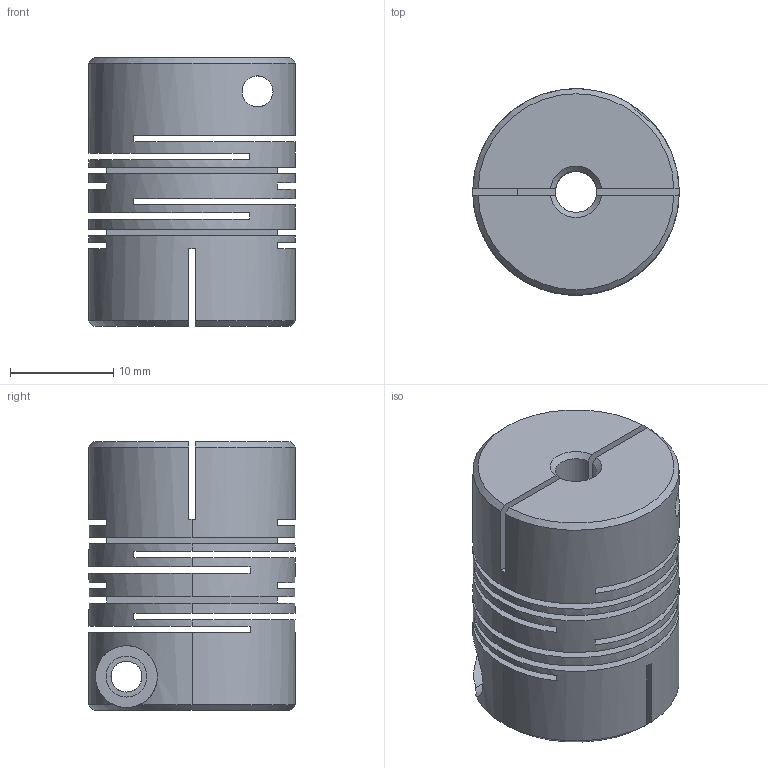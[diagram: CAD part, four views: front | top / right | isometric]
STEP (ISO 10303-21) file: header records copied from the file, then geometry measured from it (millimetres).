
FILE_DESCRIPTION (( 'STEP AP203' ), '1' );
FILE_NAME ('SFC-20C.STEP', '2009-09-30T15:19:25', ( 'USER' ), ( 'HOME' ), 'SwSTEP 2.0', 'SolidWorks 2007', '' );
FILE_SCHEMA (( 'CONFIG_CONTROL_DESIGN' ));
Length unit declared in the file: millimetre
Products named in the file (1): SFC-20C
Bounding box: 20 x 20 x 26 mm (x, y, z)
Volume: 5988.1 mm3; surface area: 7006.5 mm2
Topology: 1 solids, 1 shells, 90 faces, 261 edges, 173 vertices
Faces by surface type: plane 42, cylinder 38, cone 10
Entity records: 3369 total; most frequent: CARTESIAN_POINT 811, DIRECTION 532, ORIENTED_EDGE 522, EDGE_CURVE 261, AXIS2_PLACEMENT_3D 208, VERTEX_POINT 173, CIRCLE 117, VECTOR 116
